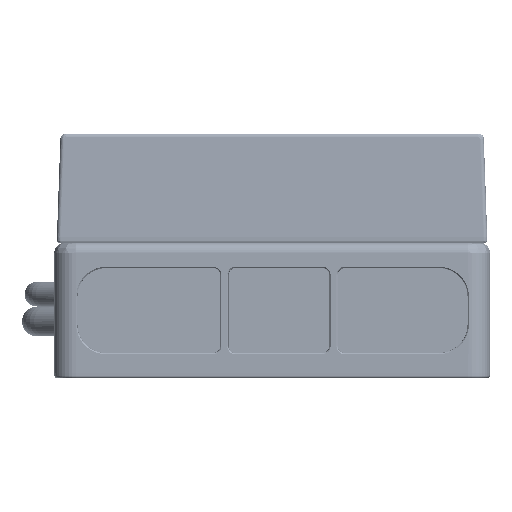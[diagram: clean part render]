
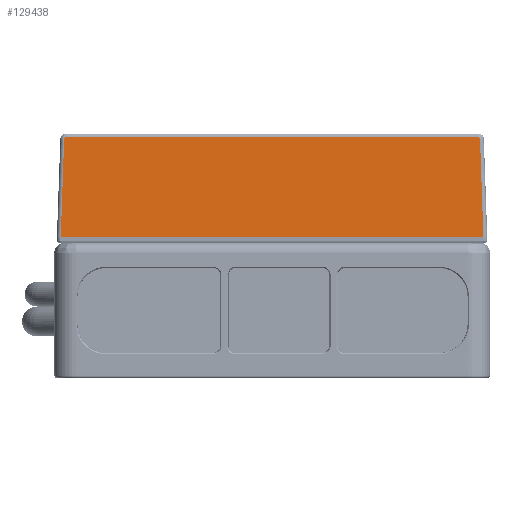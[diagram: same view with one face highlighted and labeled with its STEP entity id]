
A CAD part, front view. The second image highlights one B-rep face of the part: STEP entity #129438.
In plain terms, the highlighted planar face has unit normal (0, -0.999, 0.035) as drawn and (-0.999, 0.035, 0) by its records, which use the part's own axes.
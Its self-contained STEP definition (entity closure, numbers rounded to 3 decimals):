
#126506=DIRECTION('',(-0.035,-0.999,
-0.035));
#126507=VECTOR('',#126506,18.057);
#126508=CARTESIAN_POINT('',(-29.37,19.035,
-38.163));
#126509=LINE('',#126508,#126507);
#126510=CARTESIAN_POINT('',(-29.361,19.305,
-37.871));
#126511=CARTESIAN_POINT('',(-29.361,19.305,
-37.909));
#126512=CARTESIAN_POINT('',(-29.361,19.292,
-37.98));
#126513=CARTESIAN_POINT('',(-29.363,19.233,
-38.075));
#126514=CARTESIAN_POINT('',(-29.366,19.142,
-38.141));
#126515=CARTESIAN_POINT('',(-29.369,19.073,
-38.16));
#126516=CARTESIAN_POINT('',(-29.37,19.035,
-38.163));
#126518=DIRECTION('',(0.,0.,-1.));
#126519=VECTOR('',#126518,75.742);
#126520=CARTESIAN_POINT('',(-29.361,19.305,
37.871));
#126521=LINE('',#126520,#126519);
#126522=CARTESIAN_POINT('',(-29.37,19.035,
38.163));
#126523=CARTESIAN_POINT('',(-29.369,19.073,
38.16));
#126524=CARTESIAN_POINT('',(-29.366,19.142,
38.141));
#126525=CARTESIAN_POINT('',(-29.363,19.233,
38.075));
#126526=CARTESIAN_POINT('',(-29.361,19.292,
37.98));
#126527=CARTESIAN_POINT('',(-29.361,19.305,
37.909));
#126528=CARTESIAN_POINT('',(-29.361,19.305,
37.871));
#126530=DIRECTION('',(0.035,0.999,-0.035));
#126531=VECTOR('',#126530,18.057);
#126532=CARTESIAN_POINT('',(-30.,1.,38.793));
#126533=LINE('',#126532,#126531);
#126534=DIRECTION('',(0.,0.,1.));
#126535=VECTOR('',#126534,77.586);
#126536=CARTESIAN_POINT('',(-30.,1.,-38.793));
#126537=LINE('',#126536,#126535);
#128497=CARTESIAN_POINT('',(-29.37,19.035,
-38.163));
#128498=CARTESIAN_POINT('',(-30.,1.,-38.793));
#128499=VERTEX_POINT('',#128497);
#128500=VERTEX_POINT('',#128498);
#128511=CARTESIAN_POINT('',(-30.,1.,38.793));
#128512=VERTEX_POINT('',#128511);
#128627=CARTESIAN_POINT('',(-29.37,19.035,
38.163));
#128628=VERTEX_POINT('',#128627);
#128632=CARTESIAN_POINT('',(-29.361,19.305,
37.871));
#128633=CARTESIAN_POINT('',(-29.361,19.305,
-37.871));
#128634=VERTEX_POINT('',#128632);
#128635=VERTEX_POINT('',#128633);
#129420=CARTESIAN_POINT('',(-30.,1.,-39.5));
#129421=DIRECTION('',(-0.999,0.035,0.));
#129422=DIRECTION('',(0.,0.,1.));
#129423=AXIS2_PLACEMENT_3D('',#129420,#129421,#129422);
#129424=PLANE('',#129423);
#129425=ORIENTED_EDGE('',*,*,#129410,.F.);
#129427=ORIENTED_EDGE('',*,*,#129426,.F.);
#129429=ORIENTED_EDGE('',*,*,#129428,.F.);
#129431=ORIENTED_EDGE('',*,*,#129430,.F.);
#129433=ORIENTED_EDGE('',*,*,#129432,.F.);
#129435=ORIENTED_EDGE('',*,*,#129434,.F.);
#129436=EDGE_LOOP('',(#129425,#129427,#129429,#129431,#129433,#129435));
#129437=FACE_OUTER_BOUND('',#129436,.F.);
#129438=ADVANCED_FACE('',(#129437),#129424,.T.);
#126517=B_SPLINE_CURVE_WITH_KNOTS('',3,(#126510,#126511,#126512,#126513,#126514,
#126515,#126516),.UNSPECIFIED.,.F.,.F.,(4,1,1,1,4),(0.,0.25,0.5,0.75,
1.),.UNSPECIFIED.);
#126529=B_SPLINE_CURVE_WITH_KNOTS('',3,(#126522,#126523,#126524,#126525,#126526,
#126527,#126528),.UNSPECIFIED.,.F.,.F.,(4,1,1,1,4),(0.,0.25,0.5,0.75,
1.),.UNSPECIFIED.);
#129410=EDGE_CURVE('',#128499,#128500,#126509,.T.);
#129426=EDGE_CURVE('',#128635,#128499,#126517,.T.);
#129428=EDGE_CURVE('',#128634,#128635,#126521,.T.);
#129430=EDGE_CURVE('',#128628,#128634,#126529,.T.);
#129432=EDGE_CURVE('',#128512,#128628,#126533,.T.);
#129434=EDGE_CURVE('',#128500,#128512,#126537,.T.);
